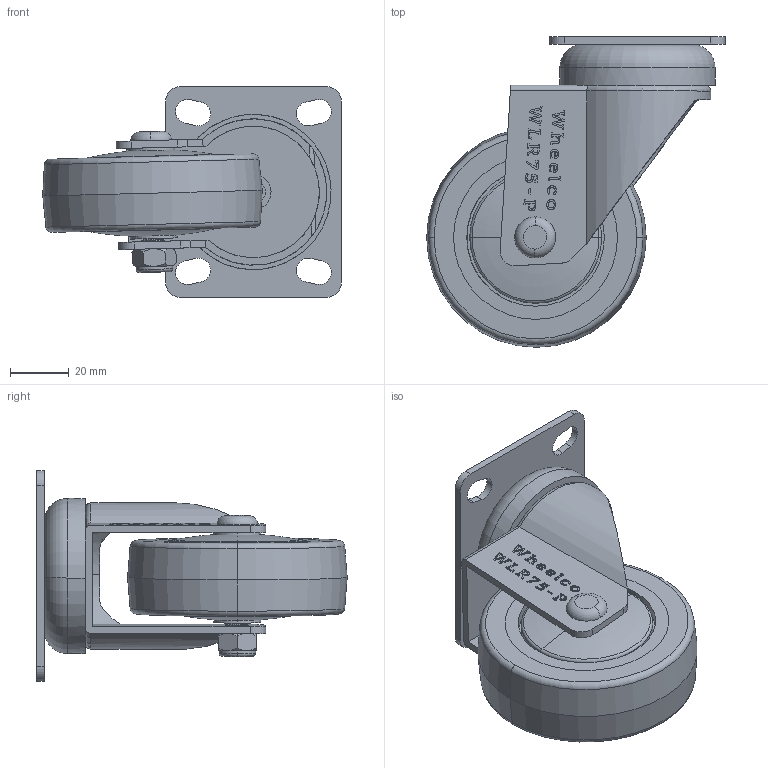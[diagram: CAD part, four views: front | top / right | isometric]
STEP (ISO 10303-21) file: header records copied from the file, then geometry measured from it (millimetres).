
FILE_DESCRIPTION (( 'STEP AP214' ), '1' );
FILE_NAME ('WLR75-P.step', '2024-01-15T01:49:58', ( '' ), ( '' ), 'SwSTEP 2.0', 'SolidWorks 2022', '' );
FILE_SCHEMA (( 'AUTOMOTIVE_DESIGN' ));
Length unit declared in the file: millimetre
Products named in the file (6): WLR75-P FRAME; M8Nyloc; 72x60; WLR75; WLR75-P; WL bolt 50mm-8mm dia
Assembly tree (5 placements, depth 2):
  WLR75-P
    WLR75-P FRAME
    WL bolt 50mm-8mm dia
    M8Nyloc
    WLR75
    72x60
Bounding box: 101.99 x 106 x 72 mm (x, y, z)
Volume: 168466.2 mm3; surface area: 48438 mm2
Topology: 5 solids, 5 shells, 481 faces, 1291 edges, 847 vertices
Faces by surface type: plane 243, cylinder 108, bspline 91, torus 19, cone 18, sphere 2
Entity records: 23084 total; most frequent: CARTESIAN_POINT 11225, ORIENTED_EDGE 2578, DIRECTION 1978, EDGE_CURVE 1289, VERTEX_POINT 847, VECTOR 804, LINE 804, AXIS2_PLACEMENT_3D 587
